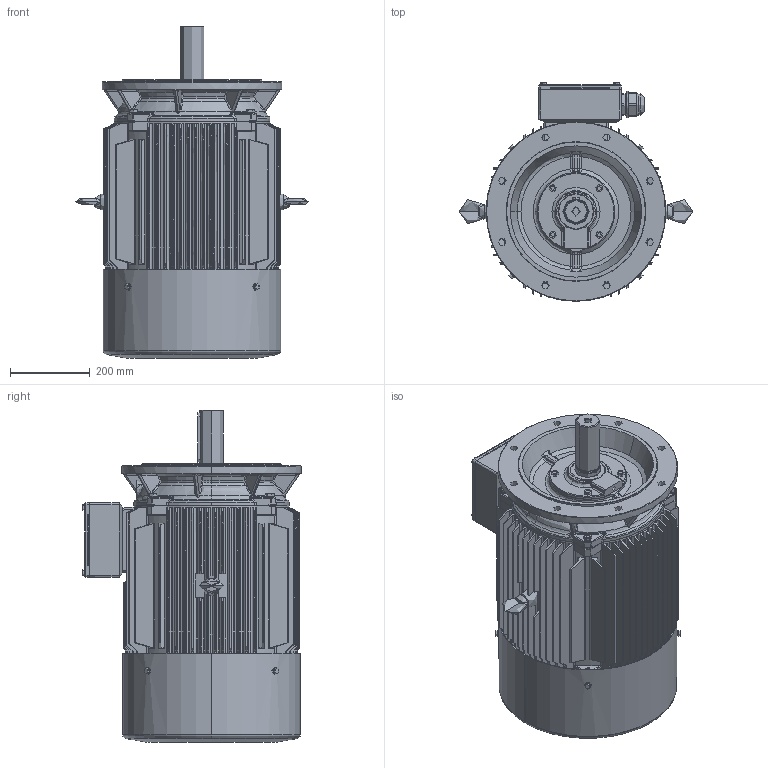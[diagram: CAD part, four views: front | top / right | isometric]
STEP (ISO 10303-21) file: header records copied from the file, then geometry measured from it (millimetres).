
FILE_DESCRIPTION(/* description */ (''),/* implementation_level */ '2;1');
FILE_NAME(/* name */ 'FCM-225M2-4-55kW-B5-IE2.stp',/* time_stamp */ '2017-06-29T15:22:03+08:00',/* author */ (''),/* organization */ (''),/* preprocessor_version */ 'ST-DEVELOPER v16',/* originating_system */ 'SIEMENS PLM Software NX 10.0',/* authorisation */ '');
FILE_SCHEMA (('CONFIG_CONTROL_DESIGN'));
Products named in the file (1): JM1-225M-4.6.8-B5
Bounding box: 586.4 x 547.8 x 832.07 mm (x, y, z)
Volume: 21944155.6 mm3; surface area: 5340005.7 mm2
Topology: 59 solids, 59 shells, 8064 faces, 22438 edges, 14644 vertices
Faces by surface type: plane 3361, cylinder 3285, bspline 739, torus 406, cone 269, sphere 4
Full cylindrical faces by diameter (mm): 7.188 x4, 8 x8, 8.4 x4, 9.026 x8, 10 x8, 10.863 x8, 11.2 x8, 12 x8, 12.6 x8, 16 x4, 20 x1, 34.375 x2, 40.625 x4, 48.438 x12, 50 x4, 51.562 x12, 53.906 x2, 57 x1, 66.406 x2, 368 x1, 378 x1
Entity records: 302385 total; most frequent: CARTESIAN_POINT 96467, ORIENTED_EDGE 44178, DIRECTION 41454, EDGE_CURVE 22089, AXIS2_PLACEMENT_3D 14867, VERTEX_POINT 14535, LINE 11720, VECTOR 11720
